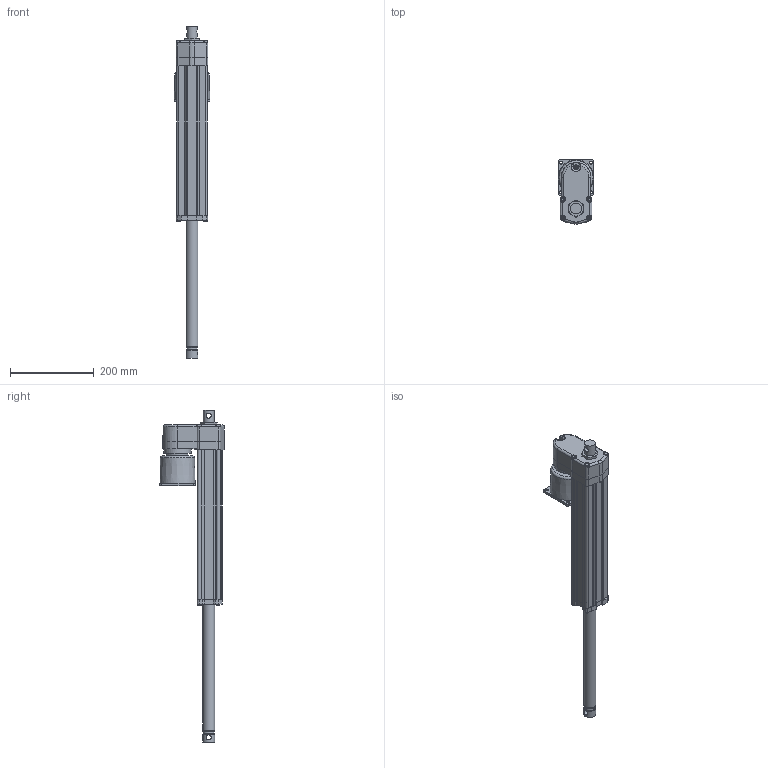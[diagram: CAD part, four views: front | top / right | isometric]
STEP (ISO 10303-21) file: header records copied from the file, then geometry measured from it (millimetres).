
FILE_DESCRIPTION (( 'STEP AP214' ), '1' );
FILE_NAME ('FA14-10A65M30M0_tollo.step', '2020-04-15T18:20:54', ( '' ), ( '' ), 'SwSTEP 2.0', 'SolidWorks 2010', '' );
FILE_SCHEMA (( 'AUTOMOTIVE_DESIGN' ));
Length unit declared in the file: millimetre
Products named in the file (9): Electrak-FA14-House-Acme-Tollo; Electrak-FA14-Rear-Tollo; Electrak-FA14-Motor-Tollo; Electrak-FA14-Tube-Acme-Tollo; Electrak-FA14-Plate-Tollo; Screw-MRT-TT-M5; Screw-M6S-M5; Electrak-FA14-Rod-Acme-Tollo; FA14-10A65M30M0_tollo
Assembly tree (15 placements, depth 3):
  FA14-10A65M30M0_tollo
    Electrak-FA14-Rod-Acme-Tollo
    Electrak-FA14-House-Acme-Tollo
      Screw-M6S-M5  x8
      Electrak-FA14-Motor-Tollo
      Electrak-FA14-Rear-Tollo
      Electrak-FA14-Tube-Acme-Tollo
      Electrak-FA14-Plate-Tollo
      Screw-MRT-TT-M5
Bounding box: 85 x 154.18 x 791.1 mm (x, y, z)
Volume: 1379903 mm3; surface area: 392392.9 mm2
Topology: 14 solids, 14 shells, 509 faces, 1279 edges, 826 vertices
Faces by surface type: plane 234, cylinder 198, cone 57, torus 18, bspline 2
Full cylindrical faces by diameter (mm): 4.126 x8, 4.8 x6, 5 x8, 5.6 x4, 6 x1, 7 x4, 7.878 x8, 9.5 x1, 11.741 x1, 12.2 x2, 25.4 x1, 28.5 x4, 34.5 x1, 47.625 x1, 50 x1, 65 x1, 80 x1
Entity records: 11671 total; most frequent: CARTESIAN_POINT 2704, DIRECTION 1857, ORIENTED_EDGE 1700, EDGE_CURVE 850, AXIS2_PLACEMENT_3D 686, VERTEX_POINT 577, VECTOR 485, LINE 485
